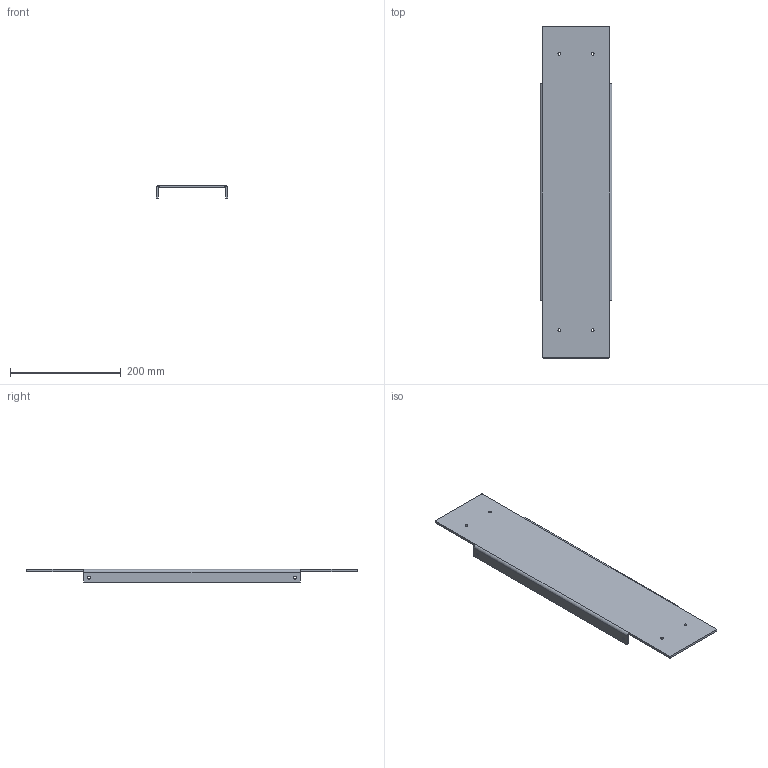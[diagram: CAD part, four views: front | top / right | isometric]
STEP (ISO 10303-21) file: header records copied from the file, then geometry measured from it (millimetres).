
FILE_DESCRIPTION(('HOOPS Exchange Step'),'2;1');
FILE_NAME('/private/var/mobile/Containers/Data/Application/E4481369-A8C6-45C6-A958-B1853E49479D/tmp/export/temp_export','2021-04-12T20:58:22+00:00',('mobile'),('Shapr3D Limited'),'HOOPS Exchange 2020.2','Shapr3D','Authorized');
FILE_SCHEMA( ('AP203_CONFIGURATION_CONTROLLED_3D_DESIGN_OF_MECHANICAL_PARTS_AND_ASSEMBLIES_MIM_LF') );
Length unit declared in the file: millimetre
Products named in the file (2): 0; /private/var/mobile/Containers/Data/Application/E4481369-A8C6-45C6-A958-B1853E49479D/tmp/90C3C3FE-5035-4CE1-9B18-01FAB4A86960.tmp
Assembly tree (1 placements, depth 2):
  /private/var/mobile/Containers/Data/Application/E4481369-A8C6-45C6-A958-B1853E49479D/tmp/90C3C3FE-5035-4CE1-9B18-01FAB4A86960.tmp
    0
Bounding box: 130 x 600 x 24 mm (x, y, z)
Volume: 361675.6 mm3; surface area: 187486.2 mm2
Topology: 1 solids, 1 shells, 38 faces, 112 edges, 76 vertices
Faces by surface type: cylinder 20, plane 18
Full cylindrical faces by diameter (mm): 5.2 x8
Entity records: 1379 total; most frequent: DIRECTION 246, CARTESIAN_POINT 229, ORIENTED_EDGE 224, EDGE_CURVE 112, AXIS2_PLACEMENT_3D 93, VERTEX_POINT 76, VECTOR 60, LINE 60
